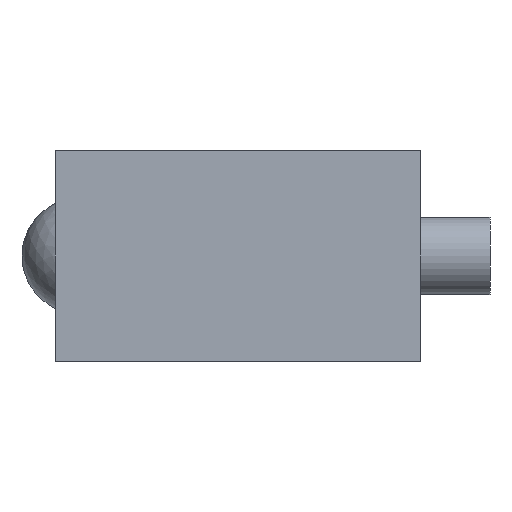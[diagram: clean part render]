
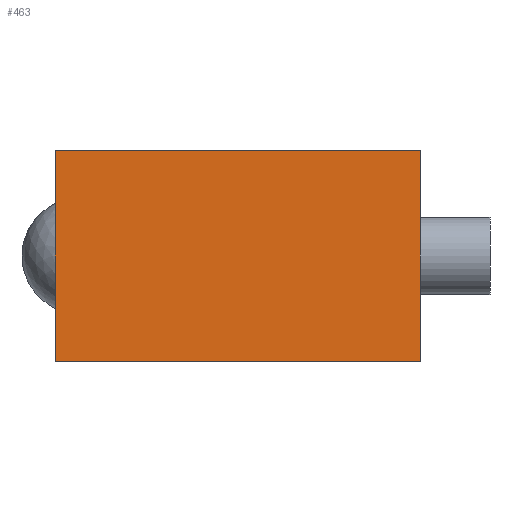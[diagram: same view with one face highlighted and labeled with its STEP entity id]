
A CAD part, left-side view. The second image highlights one B-rep face of the part: STEP entity #463.
In plain terms, the highlighted planar face has unit normal (-1, 0, 0).
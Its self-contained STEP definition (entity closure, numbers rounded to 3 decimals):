
#21=LINE('',#772,#37);
#27=LINE('',#787,#43);
#31=LINE('',#799,#47);
#33=LINE('',#802,#49);
#37=VECTOR('',#654,10.);
#43=VECTOR('',#664,10.);
#47=VECTOR('',#680,10.);
#49=VECTOR('',#684,10.);
#85=PLANE('',#545);
#118=FACE_OUTER_BOUND('',#174,.T.);
#174=EDGE_LOOP('',(#366,#367,#368,#369));
#232=VERTEX_POINT('',#770);
#233=VERTEX_POINT('',#771);
#239=VERTEX_POINT('',#784);
#240=VERTEX_POINT('',#786);
#271=EDGE_CURVE('',#232,#233,#21,.T.);
#278=EDGE_CURVE('',#239,#240,#27,.T.);
#284=EDGE_CURVE('',#240,#232,#31,.T.);
#286=EDGE_CURVE('',#233,#239,#33,.T.);
#366=ORIENTED_EDGE('',*,*,#278,.F.);
#367=ORIENTED_EDGE('',*,*,#286,.F.);
#368=ORIENTED_EDGE('',*,*,#271,.F.);
#369=ORIENTED_EDGE('',*,*,#284,.F.);
#463=ADVANCED_FACE('',(#118),#85,.T.);
#545=AXIS2_PLACEMENT_3D('',#801,#682,#683);
#654=DIRECTION('',(0.,0.,1.));
#664=DIRECTION('',(0.,0.,-1.));
#680=DIRECTION('',(0.,1.,0.));
#682=DIRECTION('center_axis',(-1.,0.,0.));
#683=DIRECTION('ref_axis',(0.,-1.,0.));
#684=DIRECTION('',(0.,-1.,0.));
#770=CARTESIAN_POINT('',(-300.,18.9,-10.9));
#771=CARTESIAN_POINT('',(-300.,18.9,10.9));
#772=CARTESIAN_POINT('',(-300.,18.9,0.));
#784=CARTESIAN_POINT('',(-300.,-18.9,10.9));
#786=CARTESIAN_POINT('',(-300.,-18.9,-10.9));
#787=CARTESIAN_POINT('',(-300.,-18.9,0.));
#799=CARTESIAN_POINT('',(-300.,18.9,-10.9));
#801=CARTESIAN_POINT('Origin',(-300.,18.9,0.));
#802=CARTESIAN_POINT('',(-300.,18.9,10.9));
